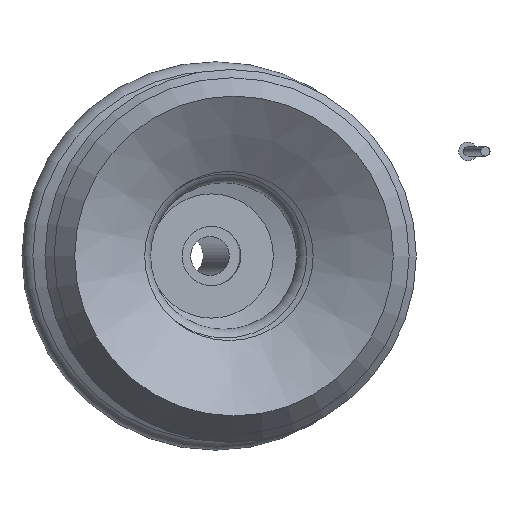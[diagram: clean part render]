
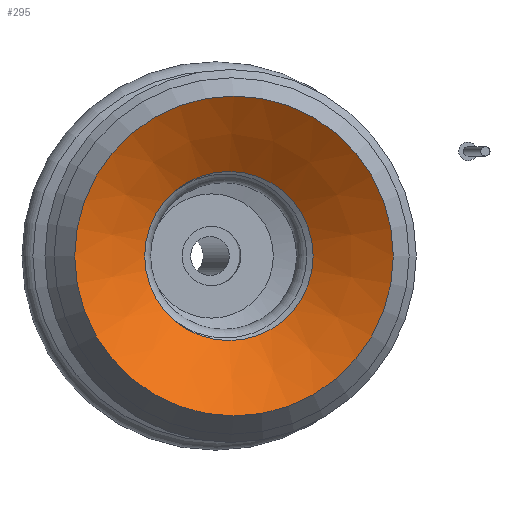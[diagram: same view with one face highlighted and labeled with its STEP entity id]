
A CAD part, front view. The second image highlights one B-rep face of the part: STEP entity #295.
In plain terms, the highlighted conical face has half-angle 53.953 degrees and reference radius 5.442 mm.
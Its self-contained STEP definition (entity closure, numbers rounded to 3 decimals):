
#295=ADVANCED_FACE('',(#548,#549),#550,.F.);
#548=FACE_OUTER_BOUND('',#768,.T.);
#549=FACE_BOUND('',#769,.T.);
#550=CONICAL_SURFACE('',#770,5.442,0.942);
#768=EDGE_LOOP('',(#1128));
#769=EDGE_LOOP('',(#1129));
#770=AXIS2_PLACEMENT_3D('',#1130,#1131,#1132);
#1128=ORIENTED_EDGE('',*,*,#1272,.T.);
#1129=ORIENTED_EDGE('',*,*,#1273,.F.);
#1130=CARTESIAN_POINT('',(0.,-21.086,0.));
#1131=DIRECTION('',(0.,-1.0,0.));
#1132=DIRECTION('',(0.0,0.,-1.0));
#1272=EDGE_CURVE('',#1455,#1455,#1456,.T.);
#1273=EDGE_CURVE('',#1457,#1457,#1458,.T.);
#1455=VERTEX_POINT('',#1726);
#1456=CIRCLE('',#1727,10.294);
#1457=VERTEX_POINT('',#1728);
#1458=CIRCLE('',#1729,5.442);
#1726=CARTESIAN_POINT('',(0.,-24.617,-10.294));
#1727=AXIS2_PLACEMENT_3D('',#1867,#1868,#1869);
#1728=CARTESIAN_POINT('',(0.,-21.086,-5.442));
#1729=AXIS2_PLACEMENT_3D('',#1870,#1871,#1872);
#1867=CARTESIAN_POINT('',(0.,-24.617,0.));
#1868=DIRECTION('',(0.,-1.0,0.));
#1869=DIRECTION('',(0.0,0.,-1.0));
#1870=CARTESIAN_POINT('',(0.,-21.086,0.));
#1871=DIRECTION('',(0.,-1.0,0.));
#1872=DIRECTION('',(0.0,0.,-1.0));
